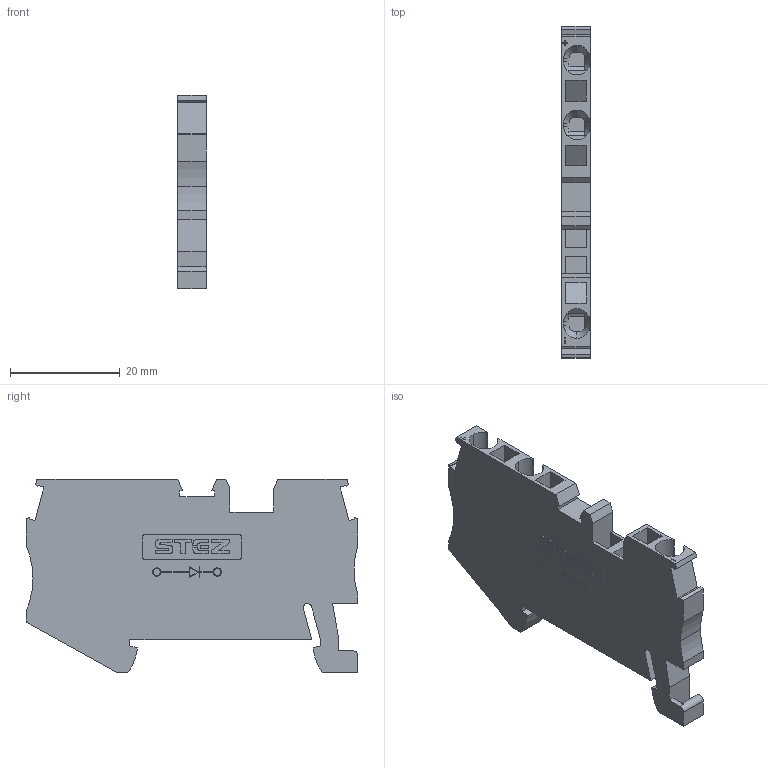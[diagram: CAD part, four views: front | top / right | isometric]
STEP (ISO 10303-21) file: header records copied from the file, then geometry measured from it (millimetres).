
FILE_DESCRIPTION(('TFLEX Exchange Step'),'2;1');
FILE_NAME('10200083 КНЗ 2,5-3-Д П-Л.stp', '2024-02-27T08:44:43+03:00',('APolyakov'),('Unknown organisation'),'TFLEX Exchange 2023.2','T-FLEX CAD','Unknown authorisation');
FILE_SCHEMA( ('AUTOMOTIVE_DESIGN { 1 0 10303 214 1 1 1 1 }') );
Length unit declared in the file: millimetre
Products named in the file (1): Тело_1:1
Bounding box: 5.15 x 60.4 x 35.25 mm (x, y, z)
Volume: 7453.5 mm3; surface area: 5810.5 mm2
Topology: 1 solids, 1 shells, 433 faces, 1232 edges, 817 vertices
Faces by surface type: plane 217, cylinder 204, cone 12
Full cylindrical faces by diameter (mm): 1.3 x2
Entity records: 14935 total; most frequent: CARTESIAN_POINT 3347, ORIENTED_EDGE 2464, DIRECTION 2439, EDGE_CURVE 1232, AXIS2_PLACEMENT_3D 836, VERTEX_POINT 817, VECTOR 767, LINE 767
